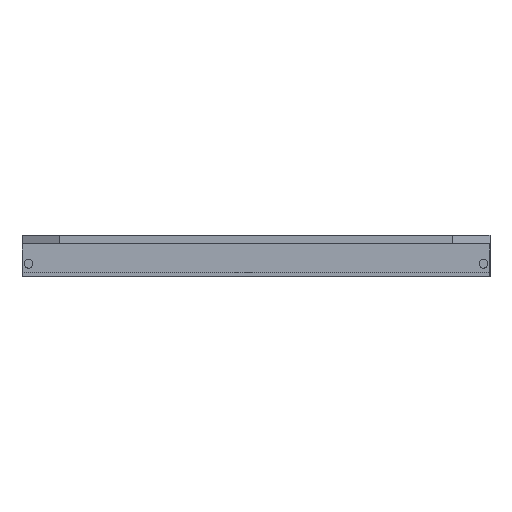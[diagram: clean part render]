
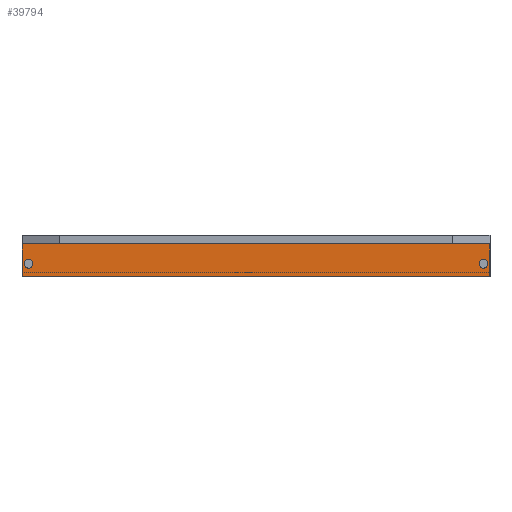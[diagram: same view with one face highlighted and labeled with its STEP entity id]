
A CAD part, front view. The second image highlights one B-rep face of the part: STEP entity #39794.
In plain terms, the highlighted planar face has unit normal (0, -1, 0).
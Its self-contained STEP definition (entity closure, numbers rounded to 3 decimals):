
#7739=DIRECTION('',(-1.,0.,0.));
#7740=VECTOR('',#7739,212.6);
#7741=CARTESIAN_POINT('',(106.3,-156.5,0.));
#7742=LINE('',#7741,#7740);
#11726=DIRECTION('',(0.,0.,-1.));
#11727=VECTOR('',#11726,14.8);
#11728=CARTESIAN_POINT('',(106.3,-156.5,0.));
#11729=LINE('',#11728,#11727);
#11730=CARTESIAN_POINT('',(-103.5,-156.5,-9.));
#11731=DIRECTION('',(0.,1.,0.));
#11732=DIRECTION('',(0.,0.,1.));
#11733=AXIS2_PLACEMENT_3D('',#11730,#11731,#11732);
#11735=CARTESIAN_POINT('',(-103.5,-156.5,-9.));
#11736=DIRECTION('',(0.,1.,0.));
#11737=DIRECTION('',(0.,0.,-1.));
#11738=AXIS2_PLACEMENT_3D('',#11735,#11736,#11737);
#11740=CARTESIAN_POINT('',(103.5,-156.5,-9.));
#11741=DIRECTION('',(0.,1.,0.));
#11742=DIRECTION('',(0.,0.,-1.));
#11743=AXIS2_PLACEMENT_3D('',#11740,#11741,#11742);
#11745=CARTESIAN_POINT('',(103.5,-156.5,-9.));
#11746=DIRECTION('',(0.,1.,0.));
#11747=DIRECTION('',(0.,0.,1.));
#11748=AXIS2_PLACEMENT_3D('',#11745,#11746,#11747);
#11750=DIRECTION('',(1.,0.,0.));
#11751=VECTOR('',#11750,212.6);
#11752=CARTESIAN_POINT('',(-106.3,-156.5,-14.8));
#11753=LINE('',#11752,#11751);
#11754=DIRECTION('',(0.,0.,-1.));
#11755=VECTOR('',#11754,14.8);
#11756=CARTESIAN_POINT('',(-106.3,-156.5,0.));
#11757=LINE('',#11756,#11755);
#18160=CARTESIAN_POINT('',(-106.3,-156.5,-14.8));
#18161=VERTEX_POINT('',#18160);
#18168=CARTESIAN_POINT('',(106.3,-156.5,-14.8));
#18169=VERTEX_POINT('',#18168);
#18170=CARTESIAN_POINT('',(103.5,-156.5,-7.));
#18171=CARTESIAN_POINT('',(103.5,-156.5,-11.));
#18172=VERTEX_POINT('',#18170);
#18173=VERTEX_POINT('',#18171);
#18174=CARTESIAN_POINT('',(-103.5,-156.5,-11.));
#18175=CARTESIAN_POINT('',(-103.5,-156.5,-7.));
#18176=VERTEX_POINT('',#18174);
#18177=VERTEX_POINT('',#18175);
#21904=CARTESIAN_POINT('',(-106.3,-156.5,0.));
#21906=VERTEX_POINT('',#21904);
#21907=CARTESIAN_POINT('',(106.3,-156.5,0.));
#21908=VERTEX_POINT('',#21907);
#39770=CARTESIAN_POINT('',(-106.5,-156.5,-15.));
#39771=DIRECTION('',(0.,-1.,0.));
#39772=DIRECTION('',(0.,0.,1.));
#39773=AXIS2_PLACEMENT_3D('',#39770,#39771,#39772);
#39774=PLANE('',#39773);
#39775=ORIENTED_EDGE('',*,*,#39765,.T.);
#39776=ORIENTED_EDGE('',*,*,#39735,.F.);
#39778=ORIENTED_EDGE('',*,*,#39777,.F.);
#39779=ORIENTED_EDGE('',*,*,#33907,.F.);
#39780=EDGE_LOOP('',(#39775,#39776,#39778,#39779));
#39781=FACE_OUTER_BOUND('',#39780,.F.);
#39783=ORIENTED_EDGE('',*,*,#39782,.F.);
#39785=ORIENTED_EDGE('',*,*,#39784,.F.);
#39786=EDGE_LOOP('',(#39783,#39785));
#39787=FACE_BOUND('',#39786,.F.);
#39789=ORIENTED_EDGE('',*,*,#39788,.F.);
#39791=ORIENTED_EDGE('',*,*,#39790,.F.);
#39792=EDGE_LOOP('',(#39789,#39791));
#39793=FACE_BOUND('',#39792,.F.);
#11734=CIRCLE('',#11733,2.);
#11739=CIRCLE('',#11738,2.);
#11744=CIRCLE('',#11743,2.);
#11749=CIRCLE('',#11748,2.);
#33907=EDGE_CURVE('',#21908,#21906,#7742,.T.);
#39735=EDGE_CURVE('',#18161,#18169,#11753,.T.);
#39765=EDGE_CURVE('',#21908,#18169,#11729,.T.);
#39777=EDGE_CURVE('',#21906,#18161,#11757,.T.);
#39782=EDGE_CURVE('',#18173,#18172,#11744,.T.);
#39784=EDGE_CURVE('',#18172,#18173,#11749,.T.);
#39788=EDGE_CURVE('',#18177,#18176,#11734,.T.);
#39790=EDGE_CURVE('',#18176,#18177,#11739,.T.);
#39794=ADVANCED_FACE('',(#39781,#39787,#39793),#39774,.T.);
